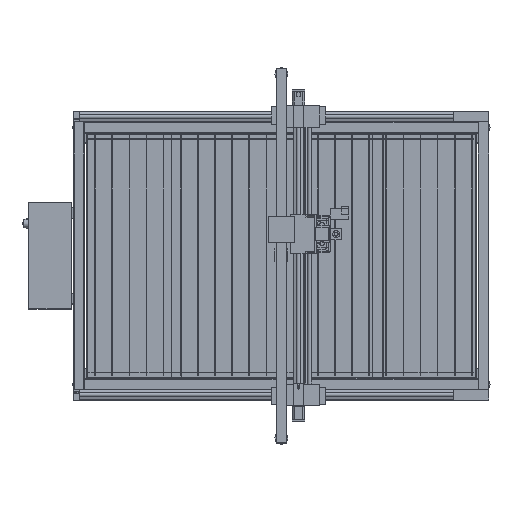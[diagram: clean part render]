
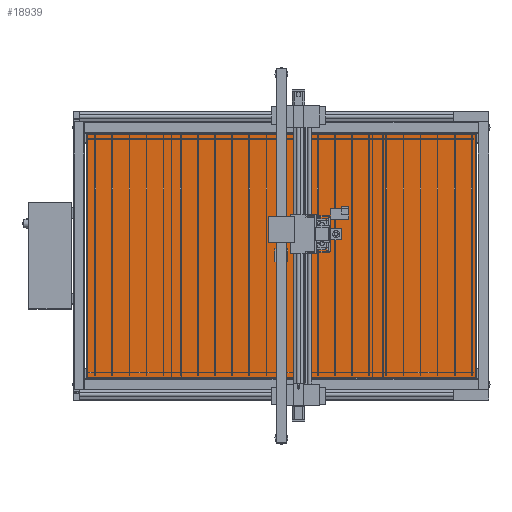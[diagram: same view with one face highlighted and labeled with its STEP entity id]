
A CAD part, top view. The second image highlights one B-rep face of the part: STEP entity #18939.
In plain terms, the highlighted planar face has unit normal (0, 0, 1).
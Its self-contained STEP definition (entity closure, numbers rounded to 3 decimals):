
#18569 = PLANE('',#18570);
#18570 = AXIS2_PLACEMENT_3D('',#18571,#18572,#18573);
#18571 = CARTESIAN_POINT('',(-838.,-568.,702.));
#18572 = DIRECTION('',(0.,1.,0.));
#18573 = DIRECTION('',(0.,0.,1.));
#18595 = PLANE('',#18596);
#18596 = AXIS2_PLACEMENT_3D('',#18597,#18598,#18599);
#18597 = CARTESIAN_POINT('',(-838.,-568.,702.));
#18598 = DIRECTION('',(1.,0.,0.));
#18599 = DIRECTION('',(0.,0.,1.));
#18621 = PLANE('',#18622);
#18622 = AXIS2_PLACEMENT_3D('',#18623,#18624,#18625);
#18623 = CARTESIAN_POINT('',(-838.,568.,702.));
#18624 = DIRECTION('',(0.,1.,0.));
#18625 = DIRECTION('',(0.,0.,1.));
#18645 = PLANE('',#18646);
#18646 = AXIS2_PLACEMENT_3D('',#18647,#18648,#18649);
#18647 = CARTESIAN_POINT('',(978.,-568.,702.));
#18648 = DIRECTION('',(1.,0.,0.));
#18649 = DIRECTION('',(0.,0.,1.));
#18743 = VERTEX_POINT('',#18744);
#18744 = CARTESIAN_POINT('',(978.,-568.,702.));
#18765 = EDGE_CURVE('',#18766,#18743,#18768,.T.);
#18766 = VERTEX_POINT('',#18767);
#18767 = CARTESIAN_POINT('',(-838.,-568.,702.));
#18768 = SURFACE_CURVE('',#18769,(#18773,#18780),.PCURVE_S1.);
#18769 = LINE('',#18770,#18771);
#18770 = CARTESIAN_POINT('',(-838.,-568.,702.));
#18771 = VECTOR('',#18772,1.);
#18772 = DIRECTION('',(1.,0.,0.));
#18773 = PCURVE('',#18569,#18774);
#18774 = DEFINITIONAL_REPRESENTATION('',(#18775),#18779);
#18775 = LINE('',#18776,#18777);
#18776 = CARTESIAN_POINT('',(0.,0.));
#18777 = VECTOR('',#18778,1.);
#18778 = DIRECTION('',(0.,1.));
#18779 = ( GEOMETRIC_REPRESENTATION_CONTEXT(2) 
PARAMETRIC_REPRESENTATION_CONTEXT() REPRESENTATION_CONTEXT('2D SPACE',''
  ) );
#18780 = PCURVE('',#18781,#18786);
#18781 = PLANE('',#18782);
#18782 = AXIS2_PLACEMENT_3D('',#18783,#18784,#18785);
#18783 = CARTESIAN_POINT('',(-838.,-568.,702.));
#18784 = DIRECTION('',(0.,0.,1.));
#18785 = DIRECTION('',(1.,0.,0.));
#18786 = DEFINITIONAL_REPRESENTATION('',(#18787),#18791);
#18787 = LINE('',#18788,#18789);
#18788 = CARTESIAN_POINT('',(0.,0.));
#18789 = VECTOR('',#18790,1.);
#18790 = DIRECTION('',(1.,0.));
#18791 = ( GEOMETRIC_REPRESENTATION_CONTEXT(2) 
PARAMETRIC_REPRESENTATION_CONTEXT() REPRESENTATION_CONTEXT('2D SPACE',''
  ) );
#18819 = EDGE_CURVE('',#18743,#18820,#18822,.T.);
#18820 = VERTEX_POINT('',#18821);
#18821 = CARTESIAN_POINT('',(978.,568.,702.));
#18822 = SURFACE_CURVE('',#18823,(#18827,#18834),.PCURVE_S1.);
#18823 = LINE('',#18824,#18825);
#18824 = CARTESIAN_POINT('',(978.,-568.,702.));
#18825 = VECTOR('',#18826,1.);
#18826 = DIRECTION('',(0.,1.,0.));
#18827 = PCURVE('',#18645,#18828);
#18828 = DEFINITIONAL_REPRESENTATION('',(#18829),#18833);
#18829 = LINE('',#18830,#18831);
#18830 = CARTESIAN_POINT('',(0.,0.));
#18831 = VECTOR('',#18832,1.);
#18832 = DIRECTION('',(0.,-1.));
#18833 = ( GEOMETRIC_REPRESENTATION_CONTEXT(2) 
PARAMETRIC_REPRESENTATION_CONTEXT() REPRESENTATION_CONTEXT('2D SPACE',''
  ) );
#18834 = PCURVE('',#18781,#18835);
#18835 = DEFINITIONAL_REPRESENTATION('',(#18836),#18840);
#18836 = LINE('',#18837,#18838);
#18837 = CARTESIAN_POINT('',(1816.,0.));
#18838 = VECTOR('',#18839,1.);
#18839 = DIRECTION('',(0.,1.));
#18840 = ( GEOMETRIC_REPRESENTATION_CONTEXT(2) 
PARAMETRIC_REPRESENTATION_CONTEXT() REPRESENTATION_CONTEXT('2D SPACE',''
  ) );
#18868 = EDGE_CURVE('',#18869,#18820,#18871,.T.);
#18869 = VERTEX_POINT('',#18870);
#18870 = CARTESIAN_POINT('',(-838.,568.,702.));
#18871 = SURFACE_CURVE('',#18872,(#18876,#18883),.PCURVE_S1.);
#18872 = LINE('',#18873,#18874);
#18873 = CARTESIAN_POINT('',(-838.,568.,702.));
#18874 = VECTOR('',#18875,1.);
#18875 = DIRECTION('',(1.,0.,0.));
#18876 = PCURVE('',#18621,#18877);
#18877 = DEFINITIONAL_REPRESENTATION('',(#18878),#18882);
#18878 = LINE('',#18879,#18880);
#18879 = CARTESIAN_POINT('',(0.,0.));
#18880 = VECTOR('',#18881,1.);
#18881 = DIRECTION('',(0.,1.));
#18882 = ( GEOMETRIC_REPRESENTATION_CONTEXT(2) 
PARAMETRIC_REPRESENTATION_CONTEXT() REPRESENTATION_CONTEXT('2D SPACE',''
  ) );
#18883 = PCURVE('',#18781,#18884);
#18884 = DEFINITIONAL_REPRESENTATION('',(#18885),#18889);
#18885 = LINE('',#18886,#18887);
#18886 = CARTESIAN_POINT('',(0.,1136.));
#18887 = VECTOR('',#18888,1.);
#18888 = DIRECTION('',(1.,0.));
#18889 = ( GEOMETRIC_REPRESENTATION_CONTEXT(2) 
PARAMETRIC_REPRESENTATION_CONTEXT() REPRESENTATION_CONTEXT('2D SPACE',''
  ) );
#18917 = EDGE_CURVE('',#18766,#18869,#18918,.T.);
#18918 = SURFACE_CURVE('',#18919,(#18923,#18930),.PCURVE_S1.);
#18919 = LINE('',#18920,#18921);
#18920 = CARTESIAN_POINT('',(-838.,-568.,702.));
#18921 = VECTOR('',#18922,1.);
#18922 = DIRECTION('',(0.,1.,0.));
#18923 = PCURVE('',#18595,#18924);
#18924 = DEFINITIONAL_REPRESENTATION('',(#18925),#18929);
#18925 = LINE('',#18926,#18927);
#18926 = CARTESIAN_POINT('',(0.,0.));
#18927 = VECTOR('',#18928,1.);
#18928 = DIRECTION('',(0.,-1.));
#18929 = ( GEOMETRIC_REPRESENTATION_CONTEXT(2) 
PARAMETRIC_REPRESENTATION_CONTEXT() REPRESENTATION_CONTEXT('2D SPACE',''
  ) );
#18930 = PCURVE('',#18781,#18931);
#18931 = DEFINITIONAL_REPRESENTATION('',(#18932),#18936);
#18932 = LINE('',#18933,#18934);
#18933 = CARTESIAN_POINT('',(0.,0.));
#18934 = VECTOR('',#18935,1.);
#18935 = DIRECTION('',(0.,1.));
#18936 = ( GEOMETRIC_REPRESENTATION_CONTEXT(2) 
PARAMETRIC_REPRESENTATION_CONTEXT() REPRESENTATION_CONTEXT('2D SPACE',''
  ) );
#18939 = ADVANCED_FACE('',(#18940),#18781,.T.);
#18940 = FACE_BOUND('',#18941,.T.);
#18941 = EDGE_LOOP('',(#18942,#18943,#18944,#18945));
#18942 = ORIENTED_EDGE('',*,*,#18917,.F.);
#18943 = ORIENTED_EDGE('',*,*,#18765,.T.);
#18944 = ORIENTED_EDGE('',*,*,#18819,.T.);
#18945 = ORIENTED_EDGE('',*,*,#18868,.F.);
